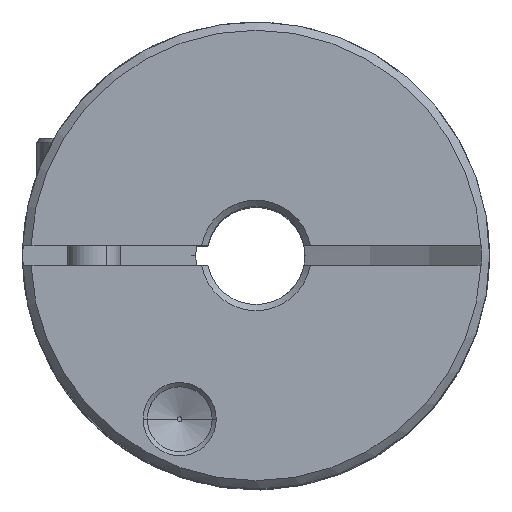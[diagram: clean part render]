
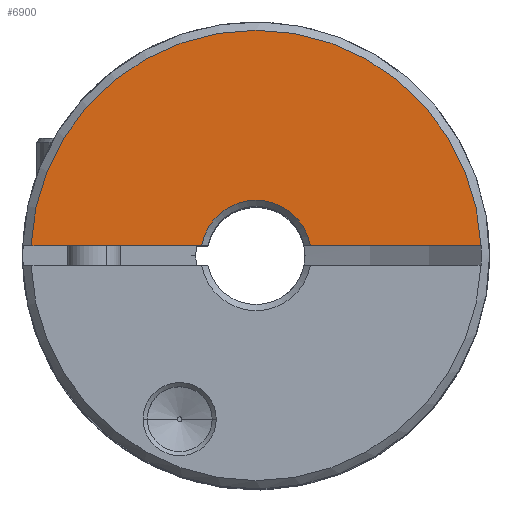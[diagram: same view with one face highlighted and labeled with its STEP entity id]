
A CAD part, top view. The second image highlights one B-rep face of the part: STEP entity #6900.
In plain terms, the highlighted planar face has unit normal (0, 0, 1).
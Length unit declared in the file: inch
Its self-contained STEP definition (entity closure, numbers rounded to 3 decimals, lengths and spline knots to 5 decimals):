
#2460=DIRECTION('',(-1.,0.,0.));
#2461=VECTOR('',#2460,0.41098);
#2462=CARTESIAN_POINT('',(-0.13101,0.0235,0.375));
#2463=LINE('',#2462,#2461);
#2507=CARTESIAN_POINT('',(0.54199,0.0235,0.375));
#2512=CARTESIAN_POINT('',(0.,0.,0.375));
#2513=DIRECTION('',(0.,0.,1.));
#2514=DIRECTION('',(0.999,0.043,0.));
#2515=AXIS2_PLACEMENT_3D('',#2512,#2513,#2514);
#2522=CARTESIAN_POINT('',(-0.54199,0.0235,0.375));
#2602=DIRECTION('',(1.,0.,0.));
#2603=VECTOR('',#2602,0.41098);
#2604=CARTESIAN_POINT('',(0.13101,0.0235,0.375));
#2605=LINE('',#2604,#2603);
#2613=CARTESIAN_POINT('',(0.,0.,0.375));
#2614=DIRECTION('',(0.,0.,-1.));
#2615=DIRECTION('',(-0.984,0.177,0.));
#2616=AXIS2_PLACEMENT_3D('',#2613,#2614,#2615);
#3201=VERTEX_POINT('',#2507);
#3203=VERTEX_POINT('',#2522);
#3205=CARTESIAN_POINT('',(0.13101,0.0235,0.375));
#3206=VERTEX_POINT('',#3205);
#3207=CARTESIAN_POINT('',(-0.13101,0.0235,0.375));
#3208=VERTEX_POINT('',#3207);
#6888=CARTESIAN_POINT('',(0.,0.,0.375));
#6889=DIRECTION('',(0.,0.,1.));
#6890=DIRECTION('',(1.,0.,0.));
#6891=AXIS2_PLACEMENT_3D('',#6888,#6889,#6890);
#6892=PLANE('',#6891);
#6893=ORIENTED_EDGE('',*,*,#6694,.F.);
#6894=ORIENTED_EDGE('',*,*,#6871,.F.);
#6896=ORIENTED_EDGE('',*,*,#6895,.F.);
#6897=ORIENTED_EDGE('',*,*,#6656,.T.);
#6898=EDGE_LOOP('',(#6893,#6894,#6896,#6897));
#6899=FACE_OUTER_BOUND('',#6898,.F.);
#2516=CIRCLE('',#2515,0.5425);
#2617=CIRCLE('',#2616,0.1331);
#6656=EDGE_CURVE('',#3208,#3203,#2463,.T.);
#6694=EDGE_CURVE('',#3201,#3203,#2516,.T.);
#6871=EDGE_CURVE('',#3206,#3201,#2605,.T.);
#6895=EDGE_CURVE('',#3208,#3206,#2617,.T.);
#6900=ADVANCED_FACE('',(#6899),#6892,.T.);
